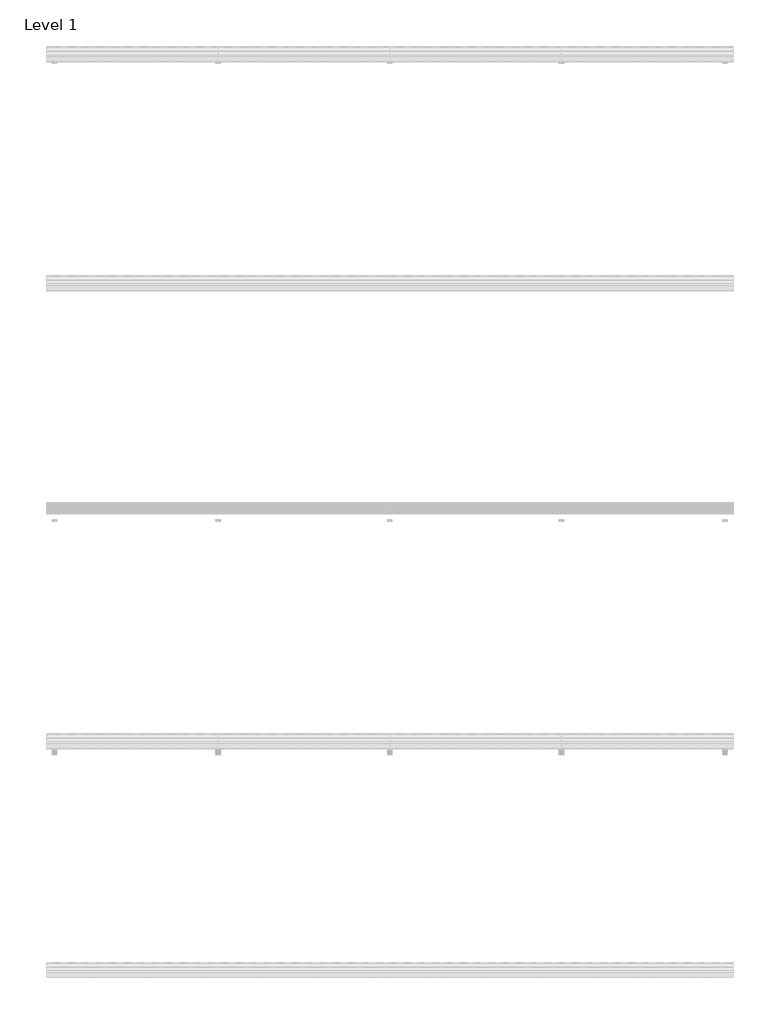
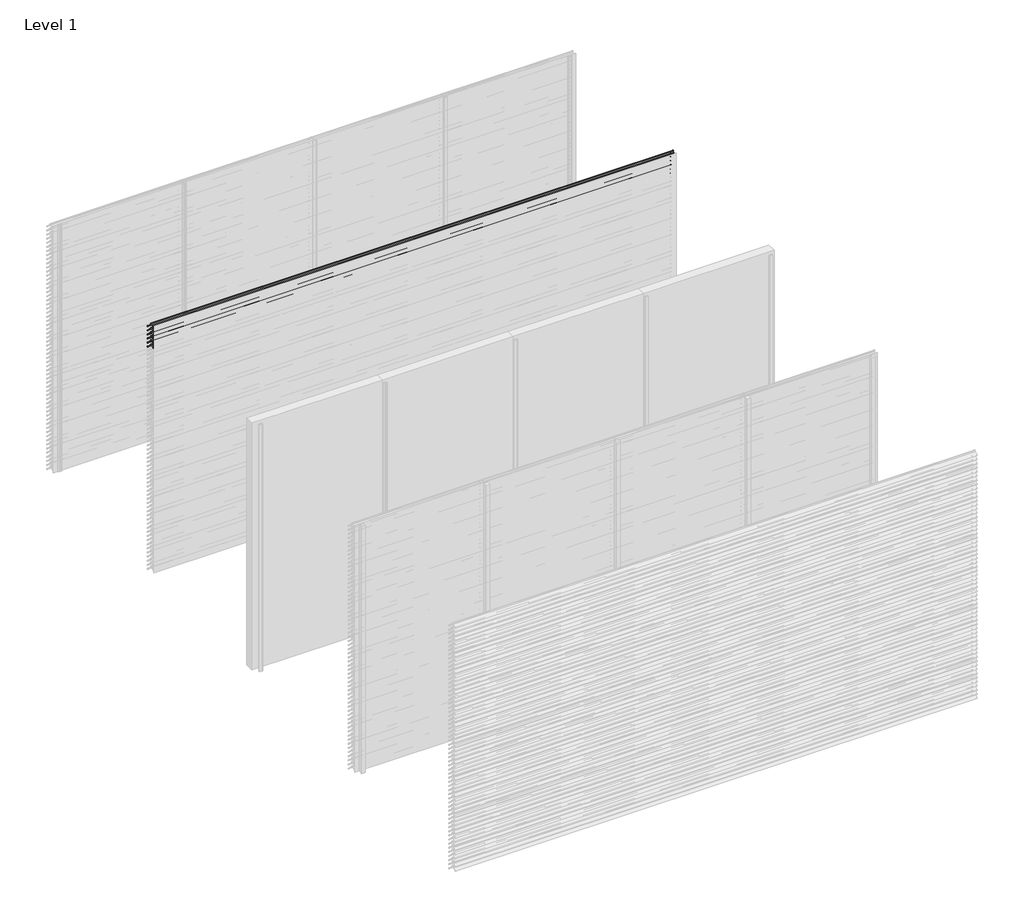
# One storey, part 88 of 173: 18 proxies.
"""IFC4 building model written with IfcOpenShell, lengths in millimetres."""

from ifc_helpers import new_model, si_unit, point, frame, frame_2d, origin, place, context, project, spatial, polyline, circle_curve, trimmed, segment, composite_curve, outline, extrude, element, save

model = new_model("IFC4")

# Units and contexts
model_context = context("Model", 3, world=origin())
ifc_project = project(units=[si_unit("LENGTHUNIT", "METRE", prefix="MILLI")], contexts=[model_context])

# Site, building, storey
site = spatial("IfcSite", under=ifc_project)
building = spatial("IfcBuilding", under=site)
storey = spatial("IfcBuildingStorey", under=building, Name="Level 1", Elevation=0.0)

# Proxies
placement = place(None, origin())
element("IfcBuildingElementProxy", 1, Name="Wall Sweeps", at=placement, inside=storey, context=model_context, shape_type="SweptSolid", body=[
    extrude(outline(composite_curve([segment(polyline([(-25998.0, 2959.1474905), (-25998.0, 2961.6227417)]), True, "CONTINUOUS"), segment(trimmed(circle_curve(frame_2d((-25951.2682172, 2916.2200208)), 65.1557103), [point((-25998.0, 2961.6227417))], [point((-25954.4014323, 2981.3003524))], False, "CARTESIAN"), True, "CONTINUOUS"), segment(polyline([(-25954.4014323, 2981.3003524), (-25934.8315836, 2981.3003524)]), True, "CONTINUOUS"), segment(trimmed(circle_curve(frame_2d((-25732.7329489, 3128.5533172)), 250.0545817), [point((-25934.8315836, 2981.3003524))], [point((-25941.4452143, 2990.8344583))], False, "CARTESIAN"), True, "CONTINUOUS"), segment(trimmed(circle_curve(frame_2d((-25953.2981792, 2985.1737835)), 13.1352966), [point((-25941.4452143, 2990.8344583))], [point((-25953.8171475, 2998.298824))], True, "CARTESIAN"), True, "CONTINUOUS"), segment(polyline([(-25953.8171475, 2998.298824), (-25953.8171475, 3000.0)]), True, "CONTINUOUS"), segment(trimmed(circle_curve(frame_2d((-25953.2981792, 2985.1737835)), 14.8352966), [point((-25953.8171475, 3000.0))], [point((-25939.9637661, 2991.6760487))], False, "CARTESIAN"), True, "CONTINUOUS"), segment(trimmed(circle_curve(frame_2d((-25732.7329489, 3128.5533172)), 248.3545817), [point((-25939.9637661, 2991.6760487))], [point((-25873.8787895, 2924.2059416))], True, "CARTESIAN"), True, "CONTINUOUS"), segment(trimmed(circle_curve(frame_2d((-25883.8147537, 2911.6649442)), 16.0), [point((-25873.8787895, 2924.2059416))], [point((-25867.8648347, 2910.4))], False, "CARTESIAN"), True, "CONTINUOUS"), segment(polyline([(-25867.8648347, 2910.4), (-25869.6712069, 2910.4)]), True, "CONTINUOUS"), segment(trimmed(circle_curve(frame_2d((-25883.8147537, 2911.6649442)), 14.2), [point((-25869.6712069, 2910.4))], [point((-25874.9518628, 2922.7594998))], True, "CARTESIAN"), True, "CONTINUOUS"), segment(trimmed(circle_curve(frame_2d((-25732.7329489, 3128.5533172)), 250.1545817), [point((-25874.9518628, 2922.7594998))], [point((-25933.7064024, 2979.6003524))], False, "CARTESIAN"), True, "CONTINUOUS"), segment(polyline([(-25933.7064024, 2979.6003524), (-25954.3602632, 2979.6003524)]), True, "CONTINUOUS"), segment(trimmed(circle_curve(frame_2d((-25951.2682172, 2916.2200208)), 63.4557103), [point((-25954.3602632, 2979.6003524))], [point((-25998.0, 2959.1474905))], True, "CARTESIAN"), True, "CONTINUOUS")], self_intersect=False)), frame((0.0, 0.0, 0.0), z_axis=(1.0, 0.0, 0.0), x_axis=(0.0, 1.0, 0.0)), (0.0, 0.0, 1.0), 6000.0),
])
element("IfcBuildingElementProxy", 2, Name="Wall Sweeps", at=placement, inside=storey, context=model_context, shape_type="SweptSolid", body=[
    extrude(outline(composite_curve([segment(polyline([(-25998.0, 2909.1474905), (-25998.0, 2911.6227417)]), True, "CONTINUOUS"), segment(trimmed(circle_curve(frame_2d((-25951.2682172, 2866.2200208)), 65.1557103), [point((-25998.0, 2911.6227417))], [point((-25954.4014323, 2931.3003524))], False, "CARTESIAN"), True, "CONTINUOUS"), segment(polyline([(-25954.4014323, 2931.3003524), (-25934.8315836, 2931.3003524)]), True, "CONTINUOUS"), segment(trimmed(circle_curve(frame_2d((-25732.7329489, 3078.5533172)), 250.0545817), [point((-25934.8315836, 2931.3003524))], [point((-25941.4452143, 2940.8344583))], False, "CARTESIAN"), True, "CONTINUOUS"), segment(trimmed(circle_curve(frame_2d((-25953.2981792, 2935.1737835)), 13.1352966), [point((-25941.4452143, 2940.8344583))], [point((-25953.8171475, 2948.298824))], True, "CARTESIAN"), True, "CONTINUOUS"), segment(polyline([(-25953.8171475, 2948.298824), (-25953.8171475, 2950.0)]), True, "CONTINUOUS"), segment(trimmed(circle_curve(frame_2d((-25953.2981792, 2935.1737835)), 14.8352966), [point((-25953.8171475, 2950.0))], [point((-25939.9637661, 2941.6760487))], False, "CARTESIAN"), True, "CONTINUOUS"), segment(trimmed(circle_curve(frame_2d((-25732.7329489, 3078.5533172)), 248.3545817), [point((-25939.9637661, 2941.6760487))], [point((-25873.8787895, 2874.2059416))], True, "CARTESIAN"), True, "CONTINUOUS"), segment(trimmed(circle_curve(frame_2d((-25883.8147537, 2861.6649442)), 16.0), [point((-25873.8787895, 2874.2059416))], [point((-25867.8648347, 2860.4))], False, "CARTESIAN"), True, "CONTINUOUS"), segment(polyline([(-25867.8648347, 2860.4), (-25869.6712069, 2860.4)]), True, "CONTINUOUS"), segment(trimmed(circle_curve(frame_2d((-25883.8147537, 2861.6649442)), 14.2), [point((-25869.6712069, 2860.4))], [point((-25874.9518628, 2872.7594998))], True, "CARTESIAN"), True, "CONTINUOUS"), segment(trimmed(circle_curve(frame_2d((-25732.7329489, 3078.5533172)), 250.1545817), [point((-25874.9518628, 2872.7594998))], [point((-25933.7064024, 2929.6003524))], False, "CARTESIAN"), True, "CONTINUOUS"), segment(polyline([(-25933.7064024, 2929.6003524), (-25954.3602632, 2929.6003524)]), True, "CONTINUOUS"), segment(trimmed(circle_curve(frame_2d((-25951.2682172, 2866.2200208)), 63.4557103), [point((-25954.3602632, 2929.6003524))], [point((-25998.0, 2909.1474905))], True, "CARTESIAN"), True, "CONTINUOUS")], self_intersect=False)), frame((0.0, 0.0, 0.0), z_axis=(1.0, 0.0, 0.0), x_axis=(0.0, 1.0, 0.0)), (0.0, 0.0, 1.0), 6000.0),
])
element("IfcBuildingElementProxy", 3, Name="Wall Sweeps", at=placement, inside=storey, context=model_context, shape_type="SweptSolid", body=[
    extrude(outline(composite_curve([segment(polyline([(-25998.0, 2859.1474905), (-25998.0, 2861.6227417)]), True, "CONTINUOUS"), segment(trimmed(circle_curve(frame_2d((-25951.2682172, 2816.2200208)), 65.1557103), [point((-25998.0, 2861.6227417))], [point((-25954.4014323, 2881.3003524))], False, "CARTESIAN"), True, "CONTINUOUS"), segment(polyline([(-25954.4014323, 2881.3003524), (-25934.8315836, 2881.3003524)]), True, "CONTINUOUS"), segment(trimmed(circle_curve(frame_2d((-25732.7329489, 3028.5533172)), 250.0545817), [point((-25934.8315836, 2881.3003524))], [point((-25941.4452143, 2890.8344583))], False, "CARTESIAN"), True, "CONTINUOUS"), segment(trimmed(circle_curve(frame_2d((-25953.2981792, 2885.1737835)), 13.1352966), [point((-25941.4452143, 2890.8344583))], [point((-25953.8171475, 2898.298824))], True, "CARTESIAN"), True, "CONTINUOUS"), segment(polyline([(-25953.8171475, 2898.298824), (-25953.8171475, 2900.0)]), True, "CONTINUOUS"), segment(trimmed(circle_curve(frame_2d((-25953.2981792, 2885.1737835)), 14.8352966), [point((-25953.8171475, 2900.0))], [point((-25939.9637661, 2891.6760487))], False, "CARTESIAN"), True, "CONTINUOUS"), segment(trimmed(circle_curve(frame_2d((-25732.7329489, 3028.5533172)), 248.3545817), [point((-25939.9637661, 2891.6760487))], [point((-25873.8787895, 2824.2059416))], True, "CARTESIAN"), True, "CONTINUOUS"), segment(trimmed(circle_curve(frame_2d((-25883.8147537, 2811.6649442)), 16.0), [point((-25873.8787895, 2824.2059416))], [point((-25867.8648347, 2810.4))], False, "CARTESIAN"), True, "CONTINUOUS"), segment(polyline([(-25867.8648347, 2810.4), (-25869.6712069, 2810.4)]), True, "CONTINUOUS"), segment(trimmed(circle_curve(frame_2d((-25883.8147537, 2811.6649442)), 14.2), [point((-25869.6712069, 2810.4))], [point((-25874.9518628, 2822.7594998))], True, "CARTESIAN"), True, "CONTINUOUS"), segment(trimmed(circle_curve(frame_2d((-25732.7329489, 3028.5533172)), 250.1545817), [point((-25874.9518628, 2822.7594998))], [point((-25933.7064024, 2879.6003524))], False, "CARTESIAN"), True, "CONTINUOUS"), segment(polyline([(-25933.7064024, 2879.6003524), (-25954.3602632, 2879.6003524)]), True, "CONTINUOUS"), segment(trimmed(circle_curve(frame_2d((-25951.2682172, 2816.2200208)), 63.4557103), [point((-25954.3602632, 2879.6003524))], [point((-25998.0, 2859.1474905))], True, "CARTESIAN"), True, "CONTINUOUS")], self_intersect=False)), frame((0.0, 0.0, 0.0), z_axis=(1.0, 0.0, 0.0), x_axis=(0.0, 1.0, 0.0)), (0.0, 0.0, 1.0), 6000.0),
])
element("IfcBuildingElementProxy", 4, Name="Wall Sweeps", at=placement, inside=storey, context=model_context, shape_type="SweptSolid", body=[
    extrude(outline(composite_curve([segment(polyline([(-25998.0, 2809.1474905), (-25998.0, 2811.6227417)]), True, "CONTINUOUS"), segment(trimmed(circle_curve(frame_2d((-25951.2682172, 2766.2200208)), 65.1557103), [point((-25998.0, 2811.6227417))], [point((-25954.4014323, 2831.3003524))], False, "CARTESIAN"), True, "CONTINUOUS"), segment(polyline([(-25954.4014323, 2831.3003524), (-25934.8315836, 2831.3003524)]), True, "CONTINUOUS"), segment(trimmed(circle_curve(frame_2d((-25732.7329489, 2978.5533172)), 250.0545817), [point((-25934.8315836, 2831.3003524))], [point((-25941.4452143, 2840.8344583))], False, "CARTESIAN"), True, "CONTINUOUS"), segment(trimmed(circle_curve(frame_2d((-25953.2981792, 2835.1737835)), 13.1352966), [point((-25941.4452143, 2840.8344583))], [point((-25953.8171475, 2848.298824))], True, "CARTESIAN"), True, "CONTINUOUS"), segment(polyline([(-25953.8171475, 2848.298824), (-25953.8171475, 2850.0)]), True, "CONTINUOUS"), segment(trimmed(circle_curve(frame_2d((-25953.2981792, 2835.1737835)), 14.8352966), [point((-25953.8171475, 2850.0))], [point((-25939.9637661, 2841.6760487))], False, "CARTESIAN"), True, "CONTINUOUS"), segment(trimmed(circle_curve(frame_2d((-25732.7329489, 2978.5533172)), 248.3545817), [point((-25939.9637661, 2841.6760487))], [point((-25873.8787895, 2774.2059416))], True, "CARTESIAN"), True, "CONTINUOUS"), segment(trimmed(circle_curve(frame_2d((-25883.8147537, 2761.6649442)), 16.0), [point((-25873.8787895, 2774.2059416))], [point((-25867.8648347, 2760.4))], False, "CARTESIAN"), True, "CONTINUOUS"), segment(polyline([(-25867.8648347, 2760.4), (-25869.6712069, 2760.4)]), True, "CONTINUOUS"), segment(trimmed(circle_curve(frame_2d((-25883.8147537, 2761.6649442)), 14.2), [point((-25869.6712069, 2760.4))], [point((-25874.9518628, 2772.7594998))], True, "CARTESIAN"), True, "CONTINUOUS"), segment(trimmed(circle_curve(frame_2d((-25732.7329489, 2978.5533172)), 250.1545817), [point((-25874.9518628, 2772.7594998))], [point((-25933.7064024, 2829.6003524))], False, "CARTESIAN"), True, "CONTINUOUS"), segment(polyline([(-25933.7064024, 2829.6003524), (-25954.3602632, 2829.6003524)]), True, "CONTINUOUS"), segment(trimmed(circle_curve(frame_2d((-25951.2682172, 2766.2200208)), 63.4557103), [point((-25954.3602632, 2829.6003524))], [point((-25998.0, 2809.1474905))], True, "CARTESIAN"), True, "CONTINUOUS")], self_intersect=False)), frame((0.0, 0.0, 0.0), z_axis=(1.0, 0.0, 0.0), x_axis=(0.0, 1.0, 0.0)), (0.0, 0.0, 1.0), 6000.0),
])
element("IfcBuildingElementProxy", 5, Name="Wall Sweeps", at=placement, inside=storey, context=model_context, shape_type="SweptSolid", body=[
    extrude(outline(composite_curve([segment(polyline([(-25998.0, 2759.1474905), (-25998.0, 2761.6227417)]), True, "CONTINUOUS"), segment(trimmed(circle_curve(frame_2d((-25951.2682172, 2716.2200208)), 65.1557103), [point((-25998.0, 2761.6227417))], [point((-25954.4014323, 2781.3003524))], False, "CARTESIAN"), True, "CONTINUOUS"), segment(polyline([(-25954.4014323, 2781.3003524), (-25934.8315836, 2781.3003524)]), True, "CONTINUOUS"), segment(trimmed(circle_curve(frame_2d((-25732.7329489, 2928.5533172)), 250.0545817), [point((-25934.8315836, 2781.3003524))], [point((-25941.4452143, 2790.8344583))], False, "CARTESIAN"), True, "CONTINUOUS"), segment(trimmed(circle_curve(frame_2d((-25953.2981792, 2785.1737835)), 13.1352966), [point((-25941.4452143, 2790.8344583))], [point((-25953.8171475, 2798.298824))], True, "CARTESIAN"), True, "CONTINUOUS"), segment(polyline([(-25953.8171475, 2798.298824), (-25953.8171475, 2800.0)]), True, "CONTINUOUS"), segment(trimmed(circle_curve(frame_2d((-25953.2981792, 2785.1737835)), 14.8352966), [point((-25953.8171475, 2800.0))], [point((-25939.9637661, 2791.6760487))], False, "CARTESIAN"), True, "CONTINUOUS"), segment(trimmed(circle_curve(frame_2d((-25732.7329489, 2928.5533172)), 248.3545817), [point((-25939.9637661, 2791.6760487))], [point((-25873.8787895, 2724.2059416))], True, "CARTESIAN"), True, "CONTINUOUS"), segment(trimmed(circle_curve(frame_2d((-25883.8147537, 2711.6649442)), 16.0), [point((-25873.8787895, 2724.2059416))], [point((-25867.8648347, 2710.4))], False, "CARTESIAN"), True, "CONTINUOUS"), segment(polyline([(-25867.8648347, 2710.4), (-25869.6712069, 2710.4)]), True, "CONTINUOUS"), segment(trimmed(circle_curve(frame_2d((-25883.8147537, 2711.6649442)), 14.2), [point((-25869.6712069, 2710.4))], [point((-25874.9518628, 2722.7594998))], True, "CARTESIAN"), True, "CONTINUOUS"), segment(trimmed(circle_curve(frame_2d((-25732.7329489, 2928.5533172)), 250.1545817), [point((-25874.9518628, 2722.7594998))], [point((-25933.7064024, 2779.6003524))], False, "CARTESIAN"), True, "CONTINUOUS"), segment(polyline([(-25933.7064024, 2779.6003524), (-25954.3602632, 2779.6003524)]), True, "CONTINUOUS"), segment(trimmed(circle_curve(frame_2d((-25951.2682172, 2716.2200208)), 63.4557103), [point((-25954.3602632, 2779.6003524))], [point((-25998.0, 2759.1474905))], True, "CARTESIAN"), True, "CONTINUOUS")], self_intersect=False)), frame((0.0, 0.0, 0.0), z_axis=(1.0, 0.0, 0.0), x_axis=(0.0, 1.0, 0.0)), (0.0, 0.0, 1.0), 6000.0),
])
element("IfcBuildingElementProxy", 6, Name="Wall Sweeps", at=placement, inside=storey, context=model_context, shape_type="SweptSolid", body=[
    extrude(outline(composite_curve([segment(polyline([(-25998.0, 2709.1474905), (-25998.0, 2711.6227417)]), True, "CONTINUOUS"), segment(trimmed(circle_curve(frame_2d((-25951.2682172, 2666.2200208)), 65.1557103), [point((-25998.0, 2711.6227417))], [point((-25954.4014323, 2731.3003524))], False, "CARTESIAN"), True, "CONTINUOUS"), segment(polyline([(-25954.4014323, 2731.3003524), (-25934.8315836, 2731.3003524)]), True, "CONTINUOUS"), segment(trimmed(circle_curve(frame_2d((-25732.7329489, 2878.5533172)), 250.0545817), [point((-25934.8315836, 2731.3003524))], [point((-25941.4452143, 2740.8344583))], False, "CARTESIAN"), True, "CONTINUOUS"), segment(trimmed(circle_curve(frame_2d((-25953.2981792, 2735.1737835)), 13.1352966), [point((-25941.4452143, 2740.8344583))], [point((-25953.8171475, 2748.298824))], True, "CARTESIAN"), True, "CONTINUOUS"), segment(polyline([(-25953.8171475, 2748.298824), (-25953.8171475, 2750.0)]), True, "CONTINUOUS"), segment(trimmed(circle_curve(frame_2d((-25953.2981792, 2735.1737835)), 14.8352966), [point((-25953.8171475, 2750.0))], [point((-25939.9637661, 2741.6760487))], False, "CARTESIAN"), True, "CONTINUOUS"), segment(trimmed(circle_curve(frame_2d((-25732.7329489, 2878.5533172)), 248.3545817), [point((-25939.9637661, 2741.6760487))], [point((-25873.8787895, 2674.2059416))], True, "CARTESIAN"), True, "CONTINUOUS"), segment(trimmed(circle_curve(frame_2d((-25883.8147537, 2661.6649442)), 16.0), [point((-25873.8787895, 2674.2059416))], [point((-25867.8648347, 2660.4))], False, "CARTESIAN"), True, "CONTINUOUS"), segment(polyline([(-25867.8648347, 2660.4), (-25869.6712069, 2660.4)]), True, "CONTINUOUS"), segment(trimmed(circle_curve(frame_2d((-25883.8147537, 2661.6649442)), 14.2), [point((-25869.6712069, 2660.4))], [point((-25874.9518628, 2672.7594998))], True, "CARTESIAN"), True, "CONTINUOUS"), segment(trimmed(circle_curve(frame_2d((-25732.7329489, 2878.5533172)), 250.1545817), [point((-25874.9518628, 2672.7594998))], [point((-25933.7064024, 2729.6003524))], False, "CARTESIAN"), True, "CONTINUOUS"), segment(polyline([(-25933.7064024, 2729.6003524), (-25954.3602632, 2729.6003524)]), True, "CONTINUOUS"), segment(trimmed(circle_curve(frame_2d((-25951.2682172, 2666.2200208)), 63.4557103), [point((-25954.3602632, 2729.6003524))], [point((-25998.0, 2709.1474905))], True, "CARTESIAN"), True, "CONTINUOUS")], self_intersect=False)), frame((0.0, 0.0, 0.0), z_axis=(1.0, 0.0, 0.0), x_axis=(0.0, 1.0, 0.0)), (0.0, 0.0, 1.0), 6000.0),
])
element("IfcBuildingElementProxy", 7, Name="Wall Sweeps", at=placement, inside=storey, context=model_context, shape_type="SweptSolid", body=[
    extrude(outline(composite_curve([segment(polyline([(-29998.0, 559.1474905), (-29998.0, 561.6227417)]), True, "CONTINUOUS"), segment(trimmed(circle_curve(frame_2d((-29951.2682172, 516.2200208)), 65.1557103), [point((-29998.0, 561.6227417))], [point((-29954.4014323, 581.3003524))], False, "CARTESIAN"), True, "CONTINUOUS"), segment(polyline([(-29954.4014323, 581.3003524), (-29934.8315836, 581.3003524)]), True, "CONTINUOUS"), segment(trimmed(circle_curve(frame_2d((-29732.7329489, 728.5533172)), 250.0545817), [point((-29934.8315836, 581.3003524))], [point((-29941.4452143, 590.8344583))], False, "CARTESIAN"), True, "CONTINUOUS"), segment(trimmed(circle_curve(frame_2d((-29953.2981792, 585.1737835)), 13.1352966), [point((-29941.4452143, 590.8344583))], [point((-29953.8171475, 598.298824))], True, "CARTESIAN"), True, "CONTINUOUS"), segment(polyline([(-29953.8171475, 598.298824), (-29953.8171475, 600.0)]), True, "CONTINUOUS"), segment(trimmed(circle_curve(frame_2d((-29953.2981792, 585.1737835)), 14.8352966), [point((-29953.8171475, 600.0))], [point((-29939.9637661, 591.6760487))], False, "CARTESIAN"), True, "CONTINUOUS"), segment(trimmed(circle_curve(frame_2d((-29732.7329489, 728.5533172)), 248.3545817), [point((-29939.9637661, 591.6760487))], [point((-29873.8787895, 524.2059416))], True, "CARTESIAN"), True, "CONTINUOUS"), segment(trimmed(circle_curve(frame_2d((-29883.8147537, 511.6649442)), 16.0), [point((-29873.8787895, 524.2059416))], [point((-29867.8648347, 510.4))], False, "CARTESIAN"), True, "CONTINUOUS"), segment(polyline([(-29867.8648347, 510.4), (-29869.6712069, 510.4)]), True, "CONTINUOUS"), segment(trimmed(circle_curve(frame_2d((-29883.8147537, 511.6649442)), 14.2), [point((-29869.6712069, 510.4))], [point((-29874.9518628, 522.7594998))], True, "CARTESIAN"), True, "CONTINUOUS"), segment(trimmed(circle_curve(frame_2d((-29732.7329489, 728.5533172)), 250.1545817), [point((-29874.9518628, 522.7594998))], [point((-29933.7064024, 579.6003524))], False, "CARTESIAN"), True, "CONTINUOUS"), segment(polyline([(-29933.7064024, 579.6003524), (-29954.3602632, 579.6003524)]), True, "CONTINUOUS"), segment(trimmed(circle_curve(frame_2d((-29951.2682172, 516.2200208)), 63.4557103), [point((-29954.3602632, 579.6003524))], [point((-29998.0, 559.1474905))], True, "CARTESIAN"), True, "CONTINUOUS")], self_intersect=False)), frame((4500.0, 0.0, 0.0), z_axis=(1.0, 0.0, 0.0), x_axis=(0.0, 1.0, 0.0)), (0.0, 0.0, 1.0), 1500.0),
])
element("IfcBuildingElementProxy", 8, Name="Wall Sweeps", at=placement, inside=storey, context=model_context, shape_type="SweptSolid", body=[
    extrude(outline(composite_curve([segment(polyline([(-29998.0, 509.1474905), (-29998.0, 511.6227417)]), True, "CONTINUOUS"), segment(trimmed(circle_curve(frame_2d((-29951.2682172, 466.2200208)), 65.1557103), [point((-29998.0, 511.6227417))], [point((-29954.4014323, 531.3003524))], False, "CARTESIAN"), True, "CONTINUOUS"), segment(polyline([(-29954.4014323, 531.3003524), (-29934.8315836, 531.3003524)]), True, "CONTINUOUS"), segment(trimmed(circle_curve(frame_2d((-29732.7329489, 678.5533172)), 250.0545817), [point((-29934.8315836, 531.3003524))], [point((-29941.4452143, 540.8344583))], False, "CARTESIAN"), True, "CONTINUOUS"), segment(trimmed(circle_curve(frame_2d((-29953.2981792, 535.1737835)), 13.1352966), [point((-29941.4452143, 540.8344583))], [point((-29953.8171475, 548.298824))], True, "CARTESIAN"), True, "CONTINUOUS"), segment(polyline([(-29953.8171475, 548.298824), (-29953.8171475, 550.0)]), True, "CONTINUOUS"), segment(trimmed(circle_curve(frame_2d((-29953.2981792, 535.1737835)), 14.8352966), [point((-29953.8171475, 550.0))], [point((-29939.9637661, 541.6760487))], False, "CARTESIAN"), True, "CONTINUOUS"), segment(trimmed(circle_curve(frame_2d((-29732.7329489, 678.5533172)), 248.3545817), [point((-29939.9637661, 541.6760487))], [point((-29873.8787895, 474.2059416))], True, "CARTESIAN"), True, "CONTINUOUS"), segment(trimmed(circle_curve(frame_2d((-29883.8147537, 461.6649442)), 16.0), [point((-29873.8787895, 474.2059416))], [point((-29867.8648347, 460.4))], False, "CARTESIAN"), True, "CONTINUOUS"), segment(polyline([(-29867.8648347, 460.4), (-29869.6712069, 460.4)]), True, "CONTINUOUS"), segment(trimmed(circle_curve(frame_2d((-29883.8147537, 461.6649442)), 14.2), [point((-29869.6712069, 460.4))], [point((-29874.9518628, 472.7594998))], True, "CARTESIAN"), True, "CONTINUOUS"), segment(trimmed(circle_curve(frame_2d((-29732.7329489, 678.5533172)), 250.1545817), [point((-29874.9518628, 472.7594998))], [point((-29933.7064024, 529.6003524))], False, "CARTESIAN"), True, "CONTINUOUS"), segment(polyline([(-29933.7064024, 529.6003524), (-29954.3602632, 529.6003524)]), True, "CONTINUOUS"), segment(trimmed(circle_curve(frame_2d((-29951.2682172, 466.2200208)), 63.4557103), [point((-29954.3602632, 529.6003524))], [point((-29998.0, 509.1474905))], True, "CARTESIAN"), True, "CONTINUOUS")], self_intersect=False)), frame((4500.0, 0.0, 0.0), z_axis=(1.0, 0.0, 0.0), x_axis=(0.0, 1.0, 0.0)), (0.0, 0.0, 1.0), 1500.0),
])
element("IfcBuildingElementProxy", 9, Name="Wall Sweeps", at=placement, inside=storey, context=model_context, shape_type="SweptSolid", body=[
    extrude(outline(composite_curve([segment(polyline([(-29998.0, 459.1474905), (-29998.0, 461.6227417)]), True, "CONTINUOUS"), segment(trimmed(circle_curve(frame_2d((-29951.2682172, 416.2200208)), 65.1557103), [point((-29998.0, 461.6227417))], [point((-29954.4014323, 481.3003524))], False, "CARTESIAN"), True, "CONTINUOUS"), segment(polyline([(-29954.4014323, 481.3003524), (-29934.8315836, 481.3003524)]), True, "CONTINUOUS"), segment(trimmed(circle_curve(frame_2d((-29732.7329489, 628.5533172)), 250.0545817), [point((-29934.8315836, 481.3003524))], [point((-29941.4452143, 490.8344583))], False, "CARTESIAN"), True, "CONTINUOUS"), segment(trimmed(circle_curve(frame_2d((-29953.2981792, 485.1737835)), 13.1352966), [point((-29941.4452143, 490.8344583))], [point((-29953.8171475, 498.298824))], True, "CARTESIAN"), True, "CONTINUOUS"), segment(polyline([(-29953.8171475, 498.298824), (-29953.8171475, 500.0)]), True, "CONTINUOUS"), segment(trimmed(circle_curve(frame_2d((-29953.2981792, 485.1737835)), 14.8352966), [point((-29953.8171475, 500.0))], [point((-29939.9637661, 491.6760487))], False, "CARTESIAN"), True, "CONTINUOUS"), segment(trimmed(circle_curve(frame_2d((-29732.7329489, 628.5533172)), 248.3545817), [point((-29939.9637661, 491.6760487))], [point((-29873.8787895, 424.2059416))], True, "CARTESIAN"), True, "CONTINUOUS"), segment(trimmed(circle_curve(frame_2d((-29883.8147537, 411.6649442)), 16.0), [point((-29873.8787895, 424.2059416))], [point((-29867.8648347, 410.4))], False, "CARTESIAN"), True, "CONTINUOUS"), segment(polyline([(-29867.8648347, 410.4), (-29869.6712069, 410.4)]), True, "CONTINUOUS"), segment(trimmed(circle_curve(frame_2d((-29883.8147537, 411.6649442)), 14.2), [point((-29869.6712069, 410.4))], [point((-29874.9518628, 422.7594998))], True, "CARTESIAN"), True, "CONTINUOUS"), segment(trimmed(circle_curve(frame_2d((-29732.7329489, 628.5533172)), 250.1545817), [point((-29874.9518628, 422.7594998))], [point((-29933.7064024, 479.6003524))], False, "CARTESIAN"), True, "CONTINUOUS"), segment(polyline([(-29933.7064024, 479.6003524), (-29954.3602632, 479.6003524)]), True, "CONTINUOUS"), segment(trimmed(circle_curve(frame_2d((-29951.2682172, 416.2200208)), 63.4557103), [point((-29954.3602632, 479.6003524))], [point((-29998.0, 459.1474905))], True, "CARTESIAN"), True, "CONTINUOUS")], self_intersect=False)), frame((4500.0, 0.0, 0.0), z_axis=(1.0, 0.0, 0.0), x_axis=(0.0, 1.0, 0.0)), (0.0, 0.0, 1.0), 1500.0),
])
element("IfcBuildingElementProxy", 10, Name="Wall Sweeps", at=placement, inside=storey, context=model_context, shape_type="SweptSolid", body=[
    extrude(outline(composite_curve([segment(polyline([(-29998.0, 409.1474905), (-29998.0, 411.6227417)]), True, "CONTINUOUS"), segment(trimmed(circle_curve(frame_2d((-29951.2682172, 366.2200208)), 65.1557103), [point((-29998.0, 411.6227417))], [point((-29954.4014323, 431.3003524))], False, "CARTESIAN"), True, "CONTINUOUS"), segment(polyline([(-29954.4014323, 431.3003524), (-29934.8315836, 431.3003524)]), True, "CONTINUOUS"), segment(trimmed(circle_curve(frame_2d((-29732.7329489, 578.5533172)), 250.0545817), [point((-29934.8315836, 431.3003524))], [point((-29941.4452143, 440.8344583))], False, "CARTESIAN"), True, "CONTINUOUS"), segment(trimmed(circle_curve(frame_2d((-29953.2981792, 435.1737835)), 13.1352966), [point((-29941.4452143, 440.8344583))], [point((-29953.8171475, 448.298824))], True, "CARTESIAN"), True, "CONTINUOUS"), segment(polyline([(-29953.8171475, 448.298824), (-29953.8171475, 450.0)]), True, "CONTINUOUS"), segment(trimmed(circle_curve(frame_2d((-29953.2981792, 435.1737835)), 14.8352966), [point((-29953.8171475, 450.0))], [point((-29939.9637661, 441.6760487))], False, "CARTESIAN"), True, "CONTINUOUS"), segment(trimmed(circle_curve(frame_2d((-29732.7329489, 578.5533172)), 248.3545817), [point((-29939.9637661, 441.6760487))], [point((-29873.8787895, 374.2059416))], True, "CARTESIAN"), True, "CONTINUOUS"), segment(trimmed(circle_curve(frame_2d((-29883.8147537, 361.6649442)), 16.0), [point((-29873.8787895, 374.2059416))], [point((-29867.8648347, 360.4))], False, "CARTESIAN"), True, "CONTINUOUS"), segment(polyline([(-29867.8648347, 360.4), (-29869.6712069, 360.4)]), True, "CONTINUOUS"), segment(trimmed(circle_curve(frame_2d((-29883.8147537, 361.6649442)), 14.2), [point((-29869.6712069, 360.4))], [point((-29874.9518628, 372.7594998))], True, "CARTESIAN"), True, "CONTINUOUS"), segment(trimmed(circle_curve(frame_2d((-29732.7329489, 578.5533172)), 250.1545817), [point((-29874.9518628, 372.7594998))], [point((-29933.7064024, 429.6003524))], False, "CARTESIAN"), True, "CONTINUOUS"), segment(polyline([(-29933.7064024, 429.6003524), (-29954.3602632, 429.6003524)]), True, "CONTINUOUS"), segment(trimmed(circle_curve(frame_2d((-29951.2682172, 366.2200208)), 63.4557103), [point((-29954.3602632, 429.6003524))], [point((-29998.0, 409.1474905))], True, "CARTESIAN"), True, "CONTINUOUS")], self_intersect=False)), frame((4500.0, 0.0, 0.0), z_axis=(1.0, 0.0, 0.0), x_axis=(0.0, 1.0, 0.0)), (0.0, 0.0, 1.0), 1500.0),
])
element("IfcBuildingElementProxy", 11, Name="Wall Sweeps", at=placement, inside=storey, context=model_context, shape_type="SweptSolid", body=[
    extrude(outline(composite_curve([segment(polyline([(-29998.0, 359.1474905), (-29998.0, 361.6227417)]), True, "CONTINUOUS"), segment(trimmed(circle_curve(frame_2d((-29951.2682172, 316.2200208)), 65.1557103), [point((-29998.0, 361.6227417))], [point((-29954.4014323, 381.3003524))], False, "CARTESIAN"), True, "CONTINUOUS"), segment(polyline([(-29954.4014323, 381.3003524), (-29934.8315836, 381.3003524)]), True, "CONTINUOUS"), segment(trimmed(circle_curve(frame_2d((-29732.7329489, 528.5533172)), 250.0545817), [point((-29934.8315836, 381.3003524))], [point((-29941.4452143, 390.8344583))], False, "CARTESIAN"), True, "CONTINUOUS"), segment(trimmed(circle_curve(frame_2d((-29953.2981792, 385.1737835)), 13.1352966), [point((-29941.4452143, 390.8344583))], [point((-29953.8171475, 398.298824))], True, "CARTESIAN"), True, "CONTINUOUS"), segment(polyline([(-29953.8171475, 398.298824), (-29953.8171475, 400.0)]), True, "CONTINUOUS"), segment(trimmed(circle_curve(frame_2d((-29953.2981792, 385.1737835)), 14.8352966), [point((-29953.8171475, 400.0))], [point((-29939.9637661, 391.6760487))], False, "CARTESIAN"), True, "CONTINUOUS"), segment(trimmed(circle_curve(frame_2d((-29732.7329489, 528.5533172)), 248.3545817), [point((-29939.9637661, 391.6760487))], [point((-29873.8787895, 324.2059416))], True, "CARTESIAN"), True, "CONTINUOUS"), segment(trimmed(circle_curve(frame_2d((-29883.8147537, 311.6649442)), 16.0), [point((-29873.8787895, 324.2059416))], [point((-29867.8648347, 310.4))], False, "CARTESIAN"), True, "CONTINUOUS"), segment(polyline([(-29867.8648347, 310.4), (-29869.6712069, 310.4)]), True, "CONTINUOUS"), segment(trimmed(circle_curve(frame_2d((-29883.8147537, 311.6649442)), 14.2), [point((-29869.6712069, 310.4))], [point((-29874.9518628, 322.7594998))], True, "CARTESIAN"), True, "CONTINUOUS"), segment(trimmed(circle_curve(frame_2d((-29732.7329489, 528.5533172)), 250.1545817), [point((-29874.9518628, 322.7594998))], [point((-29933.7064024, 379.6003524))], False, "CARTESIAN"), True, "CONTINUOUS"), segment(polyline([(-29933.7064024, 379.6003524), (-29954.3602632, 379.6003524)]), True, "CONTINUOUS"), segment(trimmed(circle_curve(frame_2d((-29951.2682172, 316.2200208)), 63.4557103), [point((-29954.3602632, 379.6003524))], [point((-29998.0, 359.1474905))], True, "CARTESIAN"), True, "CONTINUOUS")], self_intersect=False)), frame((4500.0, 0.0, 0.0), z_axis=(1.0, 0.0, 0.0), x_axis=(0.0, 1.0, 0.0)), (0.0, 0.0, 1.0), 1500.0),
])
element("IfcBuildingElementProxy", 12, Name="Wall Sweeps", at=placement, inside=storey, context=model_context, shape_type="SweptSolid", body=[
    extrude(outline(composite_curve([segment(polyline([(-29998.0, 309.1474905), (-29998.0, 311.6227417)]), True, "CONTINUOUS"), segment(trimmed(circle_curve(frame_2d((-29951.2682172, 266.2200208)), 65.1557103), [point((-29998.0, 311.6227417))], [point((-29954.4014323, 331.3003524))], False, "CARTESIAN"), True, "CONTINUOUS"), segment(polyline([(-29954.4014323, 331.3003524), (-29934.8315836, 331.3003524)]), True, "CONTINUOUS"), segment(trimmed(circle_curve(frame_2d((-29732.7329489, 478.5533172)), 250.0545817), [point((-29934.8315836, 331.3003524))], [point((-29941.4452143, 340.8344583))], False, "CARTESIAN"), True, "CONTINUOUS"), segment(trimmed(circle_curve(frame_2d((-29953.2981792, 335.1737835)), 13.1352966), [point((-29941.4452143, 340.8344583))], [point((-29953.8171475, 348.298824))], True, "CARTESIAN"), True, "CONTINUOUS"), segment(polyline([(-29953.8171475, 348.298824), (-29953.8171475, 350.0)]), True, "CONTINUOUS"), segment(trimmed(circle_curve(frame_2d((-29953.2981792, 335.1737835)), 14.8352966), [point((-29953.8171475, 350.0))], [point((-29939.9637661, 341.6760487))], False, "CARTESIAN"), True, "CONTINUOUS"), segment(trimmed(circle_curve(frame_2d((-29732.7329489, 478.5533172)), 248.3545817), [point((-29939.9637661, 341.6760487))], [point((-29873.8787895, 274.2059416))], True, "CARTESIAN"), True, "CONTINUOUS"), segment(trimmed(circle_curve(frame_2d((-29883.8147537, 261.6649442)), 16.0), [point((-29873.8787895, 274.2059416))], [point((-29867.8648347, 260.4))], False, "CARTESIAN"), True, "CONTINUOUS"), segment(polyline([(-29867.8648347, 260.4), (-29869.6712069, 260.4)]), True, "CONTINUOUS"), segment(trimmed(circle_curve(frame_2d((-29883.8147537, 261.6649442)), 14.2), [point((-29869.6712069, 260.4))], [point((-29874.9518628, 272.7594998))], True, "CARTESIAN"), True, "CONTINUOUS"), segment(trimmed(circle_curve(frame_2d((-29732.7329489, 478.5533172)), 250.1545817), [point((-29874.9518628, 272.7594998))], [point((-29933.7064024, 329.6003524))], False, "CARTESIAN"), True, "CONTINUOUS"), segment(polyline([(-29933.7064024, 329.6003524), (-29954.3602632, 329.6003524)]), True, "CONTINUOUS"), segment(trimmed(circle_curve(frame_2d((-29951.2682172, 266.2200208)), 63.4557103), [point((-29954.3602632, 329.6003524))], [point((-29998.0, 309.1474905))], True, "CARTESIAN"), True, "CONTINUOUS")], self_intersect=False)), frame((4500.0, 0.0, 0.0), z_axis=(1.0, 0.0, 0.0), x_axis=(0.0, 1.0, 0.0)), (0.0, 0.0, 1.0), 1500.0),
])
element("IfcBuildingElementProxy", 13, Name="Wall Sweeps", at=placement, inside=storey, context=model_context, shape_type="SweptSolid", body=[
    extrude(outline(composite_curve([segment(polyline([(-29998.0, 259.1474905), (-29998.0, 261.6227417)]), True, "CONTINUOUS"), segment(trimmed(circle_curve(frame_2d((-29951.2682172, 216.2200208)), 65.1557103), [point((-29998.0, 261.6227417))], [point((-29954.4014323, 281.3003524))], False, "CARTESIAN"), True, "CONTINUOUS"), segment(polyline([(-29954.4014323, 281.3003524), (-29934.8315836, 281.3003524)]), True, "CONTINUOUS"), segment(trimmed(circle_curve(frame_2d((-29732.7329489, 428.5533172)), 250.0545817), [point((-29934.8315836, 281.3003524))], [point((-29941.4452143, 290.8344583))], False, "CARTESIAN"), True, "CONTINUOUS"), segment(trimmed(circle_curve(frame_2d((-29953.2981792, 285.1737835)), 13.1352966), [point((-29941.4452143, 290.8344583))], [point((-29953.8171475, 298.298824))], True, "CARTESIAN"), True, "CONTINUOUS"), segment(polyline([(-29953.8171475, 298.298824), (-29953.8171475, 300.0)]), True, "CONTINUOUS"), segment(trimmed(circle_curve(frame_2d((-29953.2981792, 285.1737835)), 14.8352966), [point((-29953.8171475, 300.0))], [point((-29939.9637661, 291.6760487))], False, "CARTESIAN"), True, "CONTINUOUS"), segment(trimmed(circle_curve(frame_2d((-29732.7329489, 428.5533172)), 248.3545817), [point((-29939.9637661, 291.6760487))], [point((-29873.8787895, 224.2059416))], True, "CARTESIAN"), True, "CONTINUOUS"), segment(trimmed(circle_curve(frame_2d((-29883.8147537, 211.6649442)), 16.0), [point((-29873.8787895, 224.2059416))], [point((-29867.8648347, 210.4))], False, "CARTESIAN"), True, "CONTINUOUS"), segment(polyline([(-29867.8648347, 210.4), (-29869.6712069, 210.4)]), True, "CONTINUOUS"), segment(trimmed(circle_curve(frame_2d((-29883.8147537, 211.6649442)), 14.2), [point((-29869.6712069, 210.4))], [point((-29874.9518628, 222.7594998))], True, "CARTESIAN"), True, "CONTINUOUS"), segment(trimmed(circle_curve(frame_2d((-29732.7329489, 428.5533172)), 250.1545817), [point((-29874.9518628, 222.7594998))], [point((-29933.7064024, 279.6003524))], False, "CARTESIAN"), True, "CONTINUOUS"), segment(polyline([(-29933.7064024, 279.6003524), (-29954.3602632, 279.6003524)]), True, "CONTINUOUS"), segment(trimmed(circle_curve(frame_2d((-29951.2682172, 216.2200208)), 63.4557103), [point((-29954.3602632, 279.6003524))], [point((-29998.0, 259.1474905))], True, "CARTESIAN"), True, "CONTINUOUS")], self_intersect=False)), frame((4500.0, 0.0, 0.0), z_axis=(1.0, 0.0, 0.0), x_axis=(0.0, 1.0, 0.0)), (0.0, 0.0, 1.0), 1500.0),
])
element("IfcBuildingElementProxy", 14, Name="Wall Sweeps", at=placement, inside=storey, context=model_context, shape_type="SweptSolid", body=[
    extrude(outline(composite_curve([segment(polyline([(-29998.0, 209.1474905), (-29998.0, 211.6227417)]), True, "CONTINUOUS"), segment(trimmed(circle_curve(frame_2d((-29951.2682172, 166.2200208)), 65.1557103), [point((-29998.0, 211.6227417))], [point((-29954.4014323, 231.3003524))], False, "CARTESIAN"), True, "CONTINUOUS"), segment(polyline([(-29954.4014323, 231.3003524), (-29934.8315836, 231.3003524)]), True, "CONTINUOUS"), segment(trimmed(circle_curve(frame_2d((-29732.7329489, 378.5533172)), 250.0545817), [point((-29934.8315836, 231.3003524))], [point((-29941.4452143, 240.8344583))], False, "CARTESIAN"), True, "CONTINUOUS"), segment(trimmed(circle_curve(frame_2d((-29953.2981792, 235.1737835)), 13.1352966), [point((-29941.4452143, 240.8344583))], [point((-29953.8171475, 248.298824))], True, "CARTESIAN"), True, "CONTINUOUS"), segment(polyline([(-29953.8171475, 248.298824), (-29953.8171475, 250.0)]), True, "CONTINUOUS"), segment(trimmed(circle_curve(frame_2d((-29953.2981792, 235.1737835)), 14.8352966), [point((-29953.8171475, 250.0))], [point((-29939.9637661, 241.6760487))], False, "CARTESIAN"), True, "CONTINUOUS"), segment(trimmed(circle_curve(frame_2d((-29732.7329489, 378.5533172)), 248.3545817), [point((-29939.9637661, 241.6760487))], [point((-29873.8787895, 174.2059416))], True, "CARTESIAN"), True, "CONTINUOUS"), segment(trimmed(circle_curve(frame_2d((-29883.8147537, 161.6649442)), 16.0), [point((-29873.8787895, 174.2059416))], [point((-29867.8648347, 160.4))], False, "CARTESIAN"), True, "CONTINUOUS"), segment(polyline([(-29867.8648347, 160.4), (-29869.6712069, 160.4)]), True, "CONTINUOUS"), segment(trimmed(circle_curve(frame_2d((-29883.8147537, 161.6649442)), 14.2), [point((-29869.6712069, 160.4))], [point((-29874.9518628, 172.7594998))], True, "CARTESIAN"), True, "CONTINUOUS"), segment(trimmed(circle_curve(frame_2d((-29732.7329489, 378.5533172)), 250.1545817), [point((-29874.9518628, 172.7594998))], [point((-29933.7064024, 229.6003524))], False, "CARTESIAN"), True, "CONTINUOUS"), segment(polyline([(-29933.7064024, 229.6003524), (-29954.3602632, 229.6003524)]), True, "CONTINUOUS"), segment(trimmed(circle_curve(frame_2d((-29951.2682172, 166.2200208)), 63.4557103), [point((-29954.3602632, 229.6003524))], [point((-29998.0, 209.1474905))], True, "CARTESIAN"), True, "CONTINUOUS")], self_intersect=False)), frame((4500.0, 0.0, 0.0), z_axis=(1.0, 0.0, 0.0), x_axis=(0.0, 1.0, 0.0)), (0.0, 0.0, 1.0), 1500.0),
])
element("IfcBuildingElementProxy", 15, Name="Wall Sweeps", at=placement, inside=storey, context=model_context, shape_type="SweptSolid", body=[
    extrude(outline(composite_curve([segment(polyline([(-29998.0, 159.1474905), (-29998.0, 161.6227417)]), True, "CONTINUOUS"), segment(trimmed(circle_curve(frame_2d((-29951.2682172, 116.2200208)), 65.1557103), [point((-29998.0, 161.6227417))], [point((-29954.4014323, 181.3003524))], False, "CARTESIAN"), True, "CONTINUOUS"), segment(polyline([(-29954.4014323, 181.3003524), (-29934.8315836, 181.3003524)]), True, "CONTINUOUS"), segment(trimmed(circle_curve(frame_2d((-29732.7329489, 328.5533172)), 250.0545817), [point((-29934.8315836, 181.3003524))], [point((-29941.4452143, 190.8344583))], False, "CARTESIAN"), True, "CONTINUOUS"), segment(trimmed(circle_curve(frame_2d((-29953.2981792, 185.1737835)), 13.1352966), [point((-29941.4452143, 190.8344583))], [point((-29953.8171475, 198.298824))], True, "CARTESIAN"), True, "CONTINUOUS"), segment(polyline([(-29953.8171475, 198.298824), (-29953.8171475, 200.0)]), True, "CONTINUOUS"), segment(trimmed(circle_curve(frame_2d((-29953.2981792, 185.1737835)), 14.8352966), [point((-29953.8171475, 200.0))], [point((-29939.9637661, 191.6760487))], False, "CARTESIAN"), True, "CONTINUOUS"), segment(trimmed(circle_curve(frame_2d((-29732.7329489, 328.5533172)), 248.3545817), [point((-29939.9637661, 191.6760487))], [point((-29873.8787895, 124.2059416))], True, "CARTESIAN"), True, "CONTINUOUS"), segment(trimmed(circle_curve(frame_2d((-29883.8147537, 111.6649442)), 16.0), [point((-29873.8787895, 124.2059416))], [point((-29867.8648347, 110.4))], False, "CARTESIAN"), True, "CONTINUOUS"), segment(polyline([(-29867.8648347, 110.4), (-29869.6712069, 110.4)]), True, "CONTINUOUS"), segment(trimmed(circle_curve(frame_2d((-29883.8147537, 111.6649442)), 14.2), [point((-29869.6712069, 110.4))], [point((-29874.9518628, 122.7594998))], True, "CARTESIAN"), True, "CONTINUOUS"), segment(trimmed(circle_curve(frame_2d((-29732.7329489, 328.5533172)), 250.1545817), [point((-29874.9518628, 122.7594998))], [point((-29933.7064024, 179.6003524))], False, "CARTESIAN"), True, "CONTINUOUS"), segment(polyline([(-29933.7064024, 179.6003524), (-29954.3602632, 179.6003524)]), True, "CONTINUOUS"), segment(trimmed(circle_curve(frame_2d((-29951.2682172, 116.2200208)), 63.4557103), [point((-29954.3602632, 179.6003524))], [point((-29998.0, 159.1474905))], True, "CARTESIAN"), True, "CONTINUOUS")], self_intersect=False)), frame((4500.0, 0.0, 0.0), z_axis=(1.0, 0.0, 0.0), x_axis=(0.0, 1.0, 0.0)), (0.0, 0.0, 1.0), 1500.0),
])
element("IfcBuildingElementProxy", 16, Name="Wall Sweeps", at=placement, inside=storey, context=model_context, shape_type="SweptSolid", body=[
    extrude(outline(composite_curve([segment(polyline([(-29998.0, 109.1474905), (-29998.0, 111.6227417)]), True, "CONTINUOUS"), segment(trimmed(circle_curve(frame_2d((-29951.2682172, 66.2200208)), 65.1557103), [point((-29998.0, 111.6227417))], [point((-29954.4014323, 131.3003524))], False, "CARTESIAN"), True, "CONTINUOUS"), segment(polyline([(-29954.4014323, 131.3003524), (-29934.8315836, 131.3003524)]), True, "CONTINUOUS"), segment(trimmed(circle_curve(frame_2d((-29732.7329489, 278.5533172)), 250.0545817), [point((-29934.8315836, 131.3003524))], [point((-29941.4452143, 140.8344583))], False, "CARTESIAN"), True, "CONTINUOUS"), segment(trimmed(circle_curve(frame_2d((-29953.2981792, 135.1737835)), 13.1352966), [point((-29941.4452143, 140.8344583))], [point((-29953.8171475, 148.298824))], True, "CARTESIAN"), True, "CONTINUOUS"), segment(polyline([(-29953.8171475, 148.298824), (-29953.8171475, 150.0)]), True, "CONTINUOUS"), segment(trimmed(circle_curve(frame_2d((-29953.2981792, 135.1737835)), 14.8352966), [point((-29953.8171475, 150.0))], [point((-29939.9637661, 141.6760487))], False, "CARTESIAN"), True, "CONTINUOUS"), segment(trimmed(circle_curve(frame_2d((-29732.7329489, 278.5533172)), 248.3545817), [point((-29939.9637661, 141.6760487))], [point((-29873.8787895, 74.2059416))], True, "CARTESIAN"), True, "CONTINUOUS"), segment(trimmed(circle_curve(frame_2d((-29883.8147537, 61.6649442)), 16.0), [point((-29873.8787895, 74.2059416))], [point((-29867.8648347, 60.4))], False, "CARTESIAN"), True, "CONTINUOUS"), segment(polyline([(-29867.8648347, 60.4), (-29869.6712069, 60.4)]), True, "CONTINUOUS"), segment(trimmed(circle_curve(frame_2d((-29883.8147537, 61.6649442)), 14.2), [point((-29869.6712069, 60.4))], [point((-29874.9518628, 72.7594998))], True, "CARTESIAN"), True, "CONTINUOUS"), segment(trimmed(circle_curve(frame_2d((-29732.7329489, 278.5533172)), 250.1545817), [point((-29874.9518628, 72.7594998))], [point((-29933.7064024, 129.6003524))], False, "CARTESIAN"), True, "CONTINUOUS"), segment(polyline([(-29933.7064024, 129.6003524), (-29954.3602632, 129.6003524)]), True, "CONTINUOUS"), segment(trimmed(circle_curve(frame_2d((-29951.2682172, 66.2200208)), 63.4557103), [point((-29954.3602632, 129.6003524))], [point((-29998.0, 109.1474905))], True, "CARTESIAN"), True, "CONTINUOUS")], self_intersect=False)), frame((4500.0, 0.0, 0.0), z_axis=(1.0, 0.0, 0.0), x_axis=(0.0, 1.0, 0.0)), (0.0, 0.0, 1.0), 1500.0),
])
element("IfcBuildingElementProxy", 17, Name="Wall Sweeps", at=placement, inside=storey, context=model_context, shape_type="SweptSolid", body=[
    extrude(outline(composite_curve([segment(polyline([(-29998.0, 59.1474905), (-29998.0, 61.6227417)]), True, "CONTINUOUS"), segment(trimmed(circle_curve(frame_2d((-29951.2682172, 16.2200208)), 65.1557103), [point((-29998.0, 61.6227417))], [point((-29954.4014323, 81.3003524))], False, "CARTESIAN"), True, "CONTINUOUS"), segment(polyline([(-29954.4014323, 81.3003524), (-29934.8315836, 81.3003524)]), True, "CONTINUOUS"), segment(trimmed(circle_curve(frame_2d((-29732.7329489, 228.5533172)), 250.0545817), [point((-29934.8315836, 81.3003524))], [point((-29941.4452143, 90.8344583))], False, "CARTESIAN"), True, "CONTINUOUS"), segment(trimmed(circle_curve(frame_2d((-29953.2981792, 85.1737835)), 13.1352966), [point((-29941.4452143, 90.8344583))], [point((-29953.8171475, 98.298824))], True, "CARTESIAN"), True, "CONTINUOUS"), segment(polyline([(-29953.8171475, 98.298824), (-29953.8171475, 100.0)]), True, "CONTINUOUS"), segment(trimmed(circle_curve(frame_2d((-29953.2981792, 85.1737835)), 14.8352966), [point((-29953.8171475, 100.0))], [point((-29939.9637661, 91.6760487))], False, "CARTESIAN"), True, "CONTINUOUS"), segment(trimmed(circle_curve(frame_2d((-29732.7329489, 228.5533172)), 248.3545817), [point((-29939.9637661, 91.6760487))], [point((-29873.8787895, 24.2059416))], True, "CARTESIAN"), True, "CONTINUOUS"), segment(trimmed(circle_curve(frame_2d((-29883.8147537, 11.6649442)), 16.0), [point((-29873.8787895, 24.2059416))], [point((-29867.8648347, 10.4))], False, "CARTESIAN"), True, "CONTINUOUS"), segment(polyline([(-29867.8648347, 10.4), (-29869.6712069, 10.4)]), True, "CONTINUOUS"), segment(trimmed(circle_curve(frame_2d((-29883.8147537, 11.6649442)), 14.2), [point((-29869.6712069, 10.4))], [point((-29874.9518628, 22.7594998))], True, "CARTESIAN"), True, "CONTINUOUS"), segment(trimmed(circle_curve(frame_2d((-29732.7329489, 228.5533172)), 250.1545817), [point((-29874.9518628, 22.7594998))], [point((-29933.7064024, 79.6003524))], False, "CARTESIAN"), True, "CONTINUOUS"), segment(polyline([(-29933.7064024, 79.6003524), (-29954.3602632, 79.6003524)]), True, "CONTINUOUS"), segment(trimmed(circle_curve(frame_2d((-29951.2682172, 16.2200208)), 63.4557103), [point((-29954.3602632, 79.6003524))], [point((-29998.0, 59.1474905))], True, "CARTESIAN"), True, "CONTINUOUS")], self_intersect=False)), frame((4500.0, 0.0, 0.0), z_axis=(1.0, 0.0, 0.0), x_axis=(0.0, 1.0, 0.0)), (0.0, 0.0, 1.0), 1500.0),
])
element("IfcBuildingElementProxy", 18, Name="Wall Sweeps", at=placement, inside=storey, context=model_context, shape_type="SweptSolid", body=[
    extrude(outline(composite_curve([segment(polyline([(-29998.0, 9.1474905), (-29998.0, 11.6227417)]), True, "CONTINUOUS"), segment(trimmed(circle_curve(frame_2d((-29951.2682172, -33.7799792)), 65.1557103), [point((-29998.0, 11.6227417))], [point((-29954.4014323, 31.3003524))], False, "CARTESIAN"), True, "CONTINUOUS"), segment(polyline([(-29954.4014323, 31.3003524), (-29934.8315836, 31.3003524)]), True, "CONTINUOUS"), segment(trimmed(circle_curve(frame_2d((-29732.7329489, 178.5533172)), 250.0545817), [point((-29934.8315836, 31.3003524))], [point((-29941.4452143, 40.8344583))], False, "CARTESIAN"), True, "CONTINUOUS"), segment(trimmed(circle_curve(frame_2d((-29953.2981792, 35.1737835)), 13.1352966), [point((-29941.4452143, 40.8344583))], [point((-29953.8171475, 48.298824))], True, "CARTESIAN"), True, "CONTINUOUS"), segment(polyline([(-29953.8171475, 48.298824), (-29953.8171475, 50.0)]), True, "CONTINUOUS"), segment(trimmed(circle_curve(frame_2d((-29953.2981792, 35.1737835)), 14.8352966), [point((-29953.8171475, 50.0))], [point((-29939.9637661, 41.6760487))], False, "CARTESIAN"), True, "CONTINUOUS"), segment(trimmed(circle_curve(frame_2d((-29732.7329489, 178.5533172)), 248.3545817), [point((-29939.9637661, 41.6760487))], [point((-29873.8787895, -25.7940584))], True, "CARTESIAN"), True, "CONTINUOUS"), segment(trimmed(circle_curve(frame_2d((-29883.8147537, -38.3350558)), 16.0), [point((-29873.8787895, -25.7940584))], [point((-29867.8648347, -39.6))], False, "CARTESIAN"), True, "CONTINUOUS"), segment(polyline([(-29867.8648347, -39.6), (-29869.6712069, -39.6)]), True, "CONTINUOUS"), segment(trimmed(circle_curve(frame_2d((-29883.8147537, -38.3350558)), 14.2), [point((-29869.6712069, -39.6))], [point((-29874.9518628, -27.2405002))], True, "CARTESIAN"), True, "CONTINUOUS"), segment(trimmed(circle_curve(frame_2d((-29732.7329489, 178.5533172)), 250.1545817), [point((-29874.9518628, -27.2405002))], [point((-29933.7064024, 29.6003524))], False, "CARTESIAN"), True, "CONTINUOUS"), segment(polyline([(-29933.7064024, 29.6003524), (-29954.3602632, 29.6003524)]), True, "CONTINUOUS"), segment(trimmed(circle_curve(frame_2d((-29951.2682172, -33.7799792)), 63.4557103), [point((-29954.3602632, 29.6003524))], [point((-29998.0, 9.1474905))], True, "CARTESIAN"), True, "CONTINUOUS")], self_intersect=False)), frame((4500.0, 0.0, 0.0), z_axis=(1.0, 0.0, 0.0), x_axis=(0.0, 1.0, 0.0)), (0.0, 0.0, 1.0), 1500.0),
])

save(model, "model.ifc")
